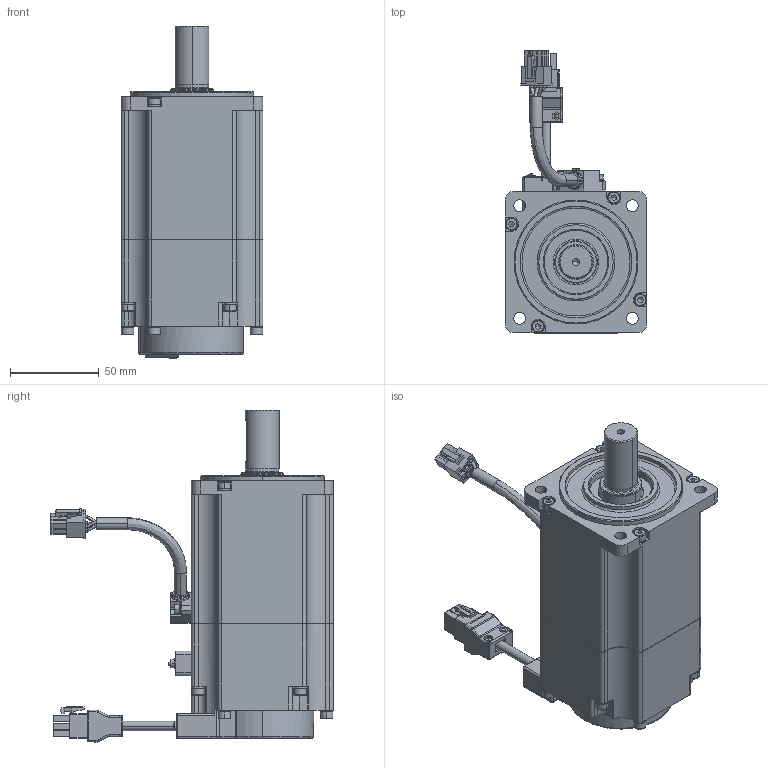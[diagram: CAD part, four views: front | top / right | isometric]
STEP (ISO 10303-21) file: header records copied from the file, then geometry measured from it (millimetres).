
FILE_DESCRIPTION (( 'STEP AP214' ), '1' );
FILE_NAME ('SME-H075B.STEP', '2020-05-18T08:17:09', ( '' ), ( '' ), 'SwSTEP 2.0', 'SolidWorks 2016', '' );
FILE_SCHEMA (( 'AUTOMOTIVE_DESIGN' ));
Length unit declared in the file: millimetre
Products named in the file (1): SME-H075B
Bounding box: 80 x 159.33 x 187.5 mm (x, y, z)
Surface area: 87708 mm2 (no closed solid volume)
Topology: 0 solids, 66 shells, 1782 faces, 4792 edges, 3148 vertices
Faces by surface type: plane 1028, cylinder 426, bspline 162, cone 158, torus 8
Entity records: 74191 total; most frequent: CARTESIAN_POINT 22278, ORIENTED_EDGE 9228, DIRECTION 8253, EDGE_CURVE 4730, VERTEX_POINT 3140, VECTOR 2845, LINE 2845, AXIS2_PLACEMENT_3D 2704
